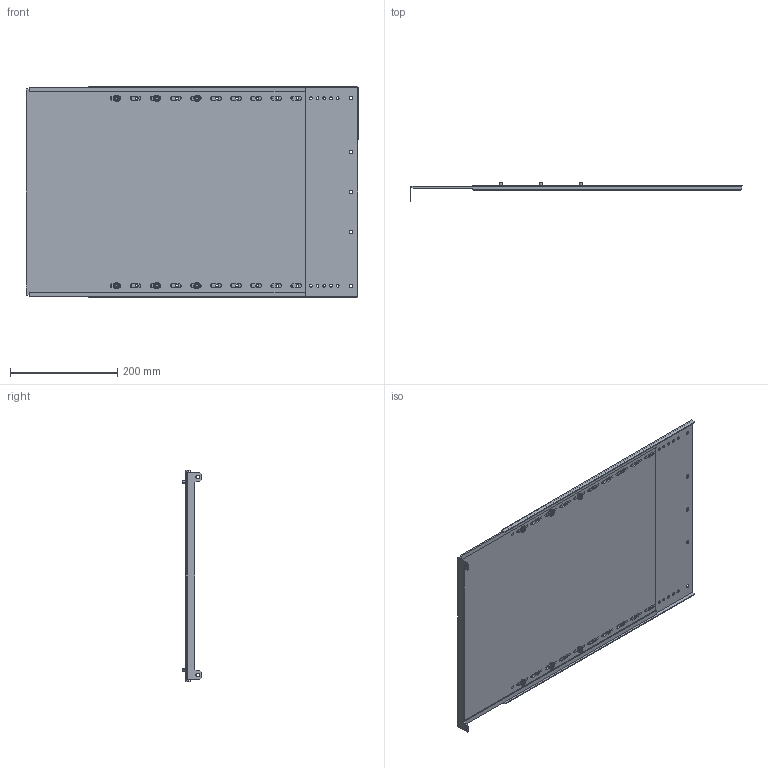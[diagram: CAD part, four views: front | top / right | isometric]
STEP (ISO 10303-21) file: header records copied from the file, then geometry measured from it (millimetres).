
FILE_DESCRIPTION (( 'STEP AP214' ), '1' );
FILE_NAME ('FO-00-SWVB-040-060 Ïåðåãîðîäêà ñåêöèîíèðîâàíèÿ âåðòèêàëüíàÿ äëÿ âåðòèêàëüíîãî øèííîãî îòñåêà 400õ600 ìì â øêàô ãëóáèíîé 1000 ìì.STEP', '2025-08-08T09:35:50', ( '' ), ( '' ), 'SwSTEP 2.0', 'SolidWorks 2023', '' );
FILE_SCHEMA (( 'AUTOMOTIVE_DESIGN' ));
Length unit declared in the file: millimetre
Products named in the file (4): Болты М5 х400; FO-00-SWVB-040-060 Перегородка секционирования вертикальная для вертикального шинного отсека 400х600 мм в шкаф глубиной 1000 мм; Перегородка секционирования  400х600; Перегородка секционирования ап 400х600
Assembly tree (5 placements, depth 2):
  FO-00-SWVB-040-060 Перегородка секционирования вертикальная для вертикального шинного отсека 400х600 мм в шкаф глубиной 1000 мм
    Перегородка секционирования ап 400х600
    Перегородка секционирования  400х600
    Болты М5 х400  x3
Bounding box: 619.75 x 35.7 x 394.5 mm (x, y, z)
Volume: 632587.7 mm3; surface area: 835373.1 mm2
Topology: 8 solids, 8 shells, 464 faces, 1272 edges, 836 vertices
Faces by surface type: cylinder 312, plane 116, torus 24, cone 12
Entity records: 12138 total; most frequent: DIRECTION 2200, CARTESIAN_POINT 2012, ORIENTED_EDGE 1992, EDGE_CURVE 996, AXIS2_PLACEMENT_3D 848, VERTEX_POINT 660, EDGE_LOOP 550, LINE 504
